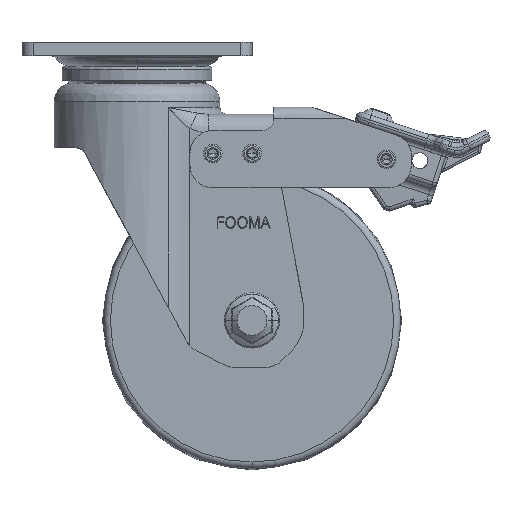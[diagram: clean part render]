
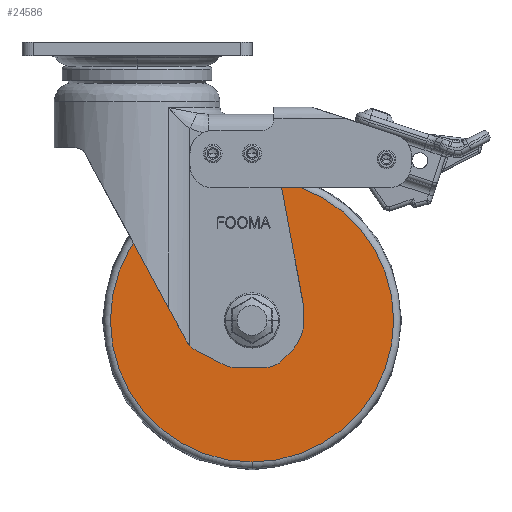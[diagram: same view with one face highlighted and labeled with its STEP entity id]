
A CAD part, front view. The second image highlights one B-rep face of the part: STEP entity #24586.
In plain terms, the highlighted planar face has unit normal (0, -1, 0) as drawn and (0, 0, 1) by its records, which use the part's own axes.
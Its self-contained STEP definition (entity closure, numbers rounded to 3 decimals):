
#3016=CARTESIAN_POINT('',(101.278,62.061,4.));
#3017=VERTEX_POINT('',#3016);
#3026=CARTESIAN_POINT('',(101.278,-61.051,4.));
#3027=VERTEX_POINT('',#3026);
#3035=CARTESIAN_POINT('',(101.278,0.505,4.));
#3036=DIRECTION('',(0.0,0.0,-1.0));
#3037=DIRECTION('',(0.0,1.0,0.0));
#3038=AXIS2_PLACEMENT_3D('',#3035,#3036,#3037);
#3039=CIRCLE('',#3038,61.556);
#3040=EDGE_CURVE('',#3027,#3017,#3039,.T.);
#3084=CARTESIAN_POINT('',(101.278,10.505,4.));
#3085=VERTEX_POINT('',#3084);
#3094=CARTESIAN_POINT('',(101.278,-9.495,4.));
#3095=VERTEX_POINT('',#3094);
#3096=CARTESIAN_POINT('',(101.278,0.505,4.));
#3097=DIRECTION('',(0.0,0.0,-1.0));
#3098=DIRECTION('',(0.0,1.0,0.0));
#3099=AXIS2_PLACEMENT_3D('',#3096,#3097,#3098);
#3100=CIRCLE('',#3099,10.);
#3101=EDGE_CURVE('',#3095,#3085,#3100,.T.);
#24519=CARTESIAN_POINT('',(101.278,0.505,4.));
#24520=DIRECTION('',(0.0,0.0,-1.0));
#24521=DIRECTION('',(0.0,1.0,0.0));
#24522=AXIS2_PLACEMENT_3D('',#24519,#24520,#24521);
#24523=CIRCLE('',#24522,10.);
#24524=EDGE_CURVE('',#3085,#3095,#24523,.T.);
#24567=CARTESIAN_POINT('',(101.278,36.283,4.));
#24568=DIRECTION('',(0.0,0.0,1.0));
#24569=DIRECTION('',(0.0,-1.0,0.0));
#24570=AXIS2_PLACEMENT_3D('',#24567,#24568,#24569);
#24571=PLANE('',#24570);
#24572=CARTESIAN_POINT('',(101.278,0.505,4.));
#24573=DIRECTION('',(0.0,0.0,-1.0));
#24574=DIRECTION('',(0.0,1.0,0.0));
#24575=AXIS2_PLACEMENT_3D('',#24572,#24573,#24574);
#24576=CIRCLE('',#24575,61.556);
#24577=EDGE_CURVE('',#3017,#3027,#24576,.T.);
#24578=ORIENTED_EDGE('',*,*,#24577,.F.);
#24579=ORIENTED_EDGE('',*,*,#3040,.F.);
#24580=EDGE_LOOP('',(#24578,#24579));
#24581=FACE_OUTER_BOUND('',#24580,.T.);
#24582=ORIENTED_EDGE('',*,*,#24524,.T.);
#24583=ORIENTED_EDGE('',*,*,#3101,.T.);
#24584=EDGE_LOOP('',(#24582,#24583));
#24585=FACE_BOUND('',#24584,.T.);
#24586=ADVANCED_FACE('',(#24581,#24585),#24571,.T.);
